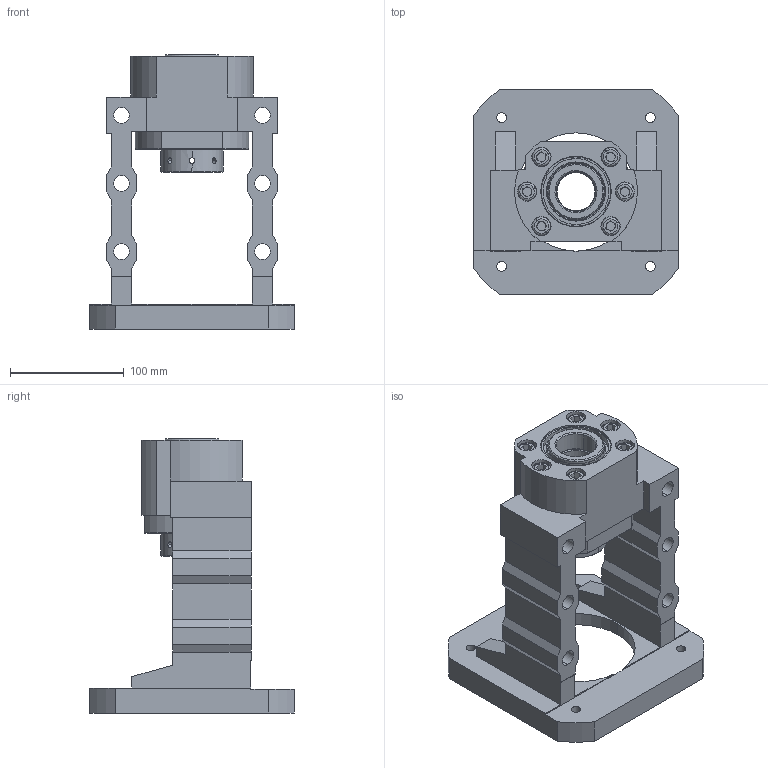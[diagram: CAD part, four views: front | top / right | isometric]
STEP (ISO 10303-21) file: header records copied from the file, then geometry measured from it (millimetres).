
FILE_DESCRIPTION (( 'STEP AP203' ), '1' );
FILE_NAME ('MBCK35-J²Õ¦X¥ó.STEP', '2024-09-03T02:33:10', ( '' ), ( '' ), 'SwSTEP 2.0', 'SolidWorks 2018', '' );
FILE_SCHEMA (( 'CONFIG_CONTROL_DESIGN' ));
Length unit declared in the file: millimetre
Products named in the file (1): MBCK35-J組合件
Bounding box: 180 x 180 x 241 mm (x, y, z)
Surface area: 237414.6 mm2 (no closed solid volume)
Topology: 0 solids, 23 shells, 342 faces, 977 edges, 647 vertices
Faces by surface type: plane 134, cylinder 112, cone 64, torus 20, bspline 12
Entity records: 30265 total; most frequent: CARTESIAN_POINT 21345, DIRECTION 1872, ORIENTED_EDGE 1710, EDGE_CURVE 969, AXIS2_PLACEMENT_3D 700, VERTEX_POINT 647, LINE 472, VECTOR 472
